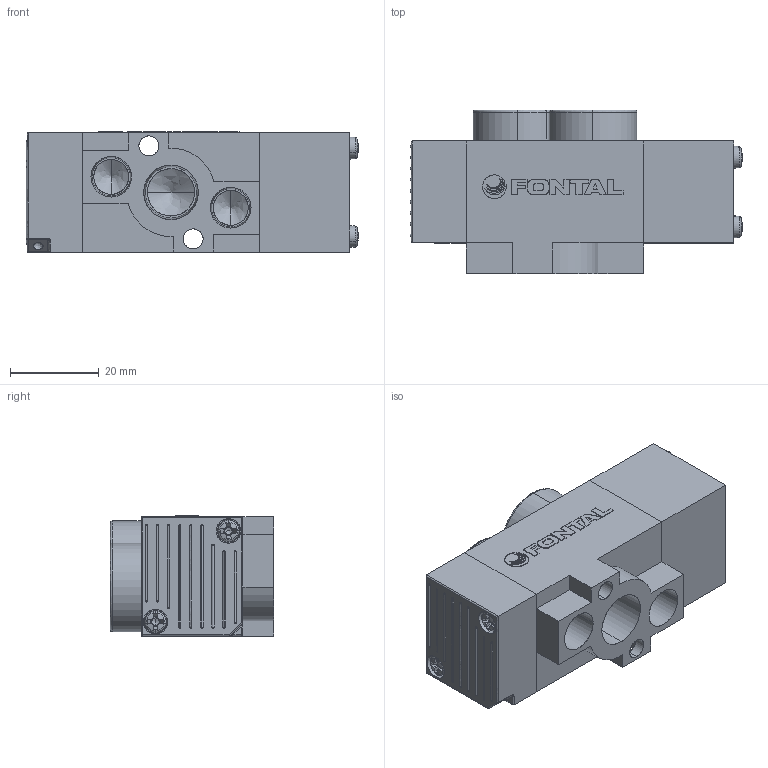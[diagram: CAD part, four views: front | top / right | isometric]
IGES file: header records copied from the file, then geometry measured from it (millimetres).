
Start section: SolidWorks IGES file using analytic representation for surfaces
Global section: file name: C:\Users\Toshiba\Desktop\YCS2406-02.IGS; native system: SolidWorks 2014; preprocessor: SolidWorks 2014; author: Toshiba; date: 160808.093056; units: millimetre
Bounding box: 74.99 x 37 x 27.15 mm (x, y, z)
Surface area: 17945.2 mm2 (no closed solid volume)
Topology: 0 solids, 0 shells, 413 faces, 4135 edges, 4093 vertices
Faces by surface type: bspline 261, revolution 152
